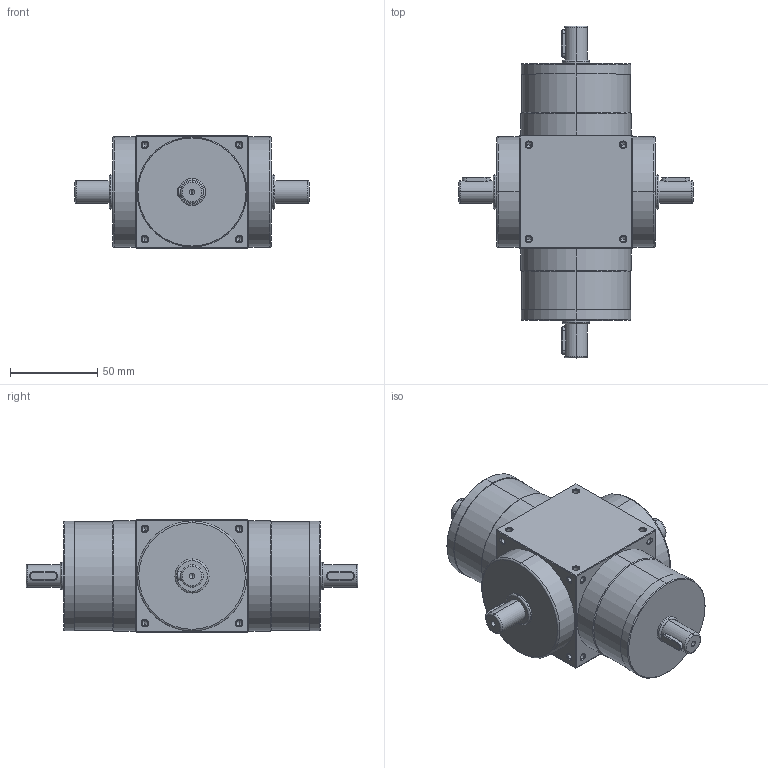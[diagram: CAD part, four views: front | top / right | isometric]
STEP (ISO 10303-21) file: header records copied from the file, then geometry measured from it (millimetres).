
FILE_DESCRIPTION (( 'STEP AP214' ), '1' );
FILE_NAME ('AT065-4M-001.STEP', '2019-10-19T07:10:10', ( 'User' ), ( 'Far123' ), 'SwSTEP 2.0', 'SolidWorks 2015', '' );
FILE_SCHEMA (( 'AUTOMOTIVE_DESIGN' ));
Length unit declared in the file: millimetre
Products named in the file (1): AT065-4M-001
Bounding box: 134 x 190 x 65 mm (x, y, z)
Volume: 617258.5 mm3; surface area: 52401.5 mm2
Topology: 1 solids, 2 shells, 348 faces, 866 edges, 480 vertices
Faces by surface type: cylinder 146, cone 120, plane 62, torus 20
Entity records: 11126 total; most frequent: CARTESIAN_POINT 2367, DIRECTION 1628, ORIENTED_EDGE 1620, EDGE_CURVE 810, AXIS2_PLACEMENT_3D 637, VERTEX_POINT 480, EDGE_LOOP 394, LINE 354
